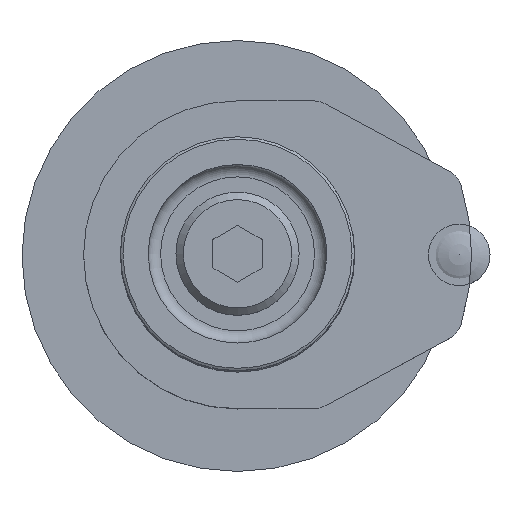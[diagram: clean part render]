
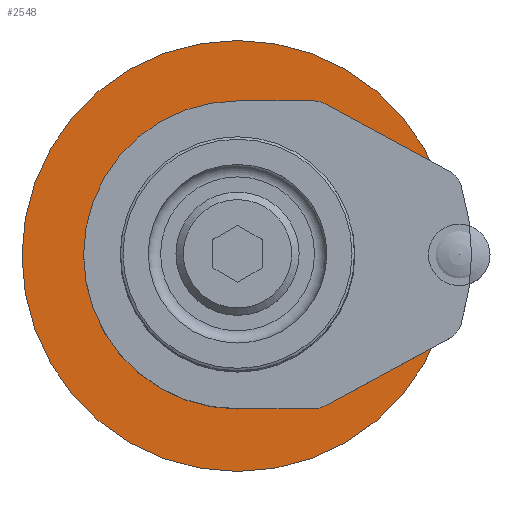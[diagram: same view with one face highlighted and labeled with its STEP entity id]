
A CAD part, top view. The second image highlights one B-rep face of the part: STEP entity #2548.
In plain terms, the highlighted planar face has unit normal (0, 0, 1).
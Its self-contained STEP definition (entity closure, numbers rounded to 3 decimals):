
#2261=PLANE('',#4836);
#2349=FACE_OUTER_BOUND('',#3133,.T.);
#2548=ADVANCED_FACE('',(#2349),#2261,.F.);
#3133=EDGE_LOOP('',(#3693));
#3693=ORIENTED_EDGE('',*,*,#4298,.F.);
#4007=VERTEX_POINT('',#6507);
#4298=EDGE_CURVE('',#4007,#4007,#4497,.T.);
#4497=CIRCLE('',#4834,17.5);
#4834=AXIS2_PLACEMENT_3D('',#6506,#5630,#5631);
#4836=AXIS2_PLACEMENT_3D('',#6509,#5634,#5635);
#5630=DIRECTION('',(0.,0.,-1.));
#5631=DIRECTION('',(0.,1.,0.));
#5634=DIRECTION('',(0.,0.,-1.));
#5635=DIRECTION('',(-1.,0.,0.));
#6506=CARTESIAN_POINT('',(0.,0.,70.));
#6507=CARTESIAN_POINT('',(0.,17.5,70.));
#6509=CARTESIAN_POINT('',(0.,0.,70.));
